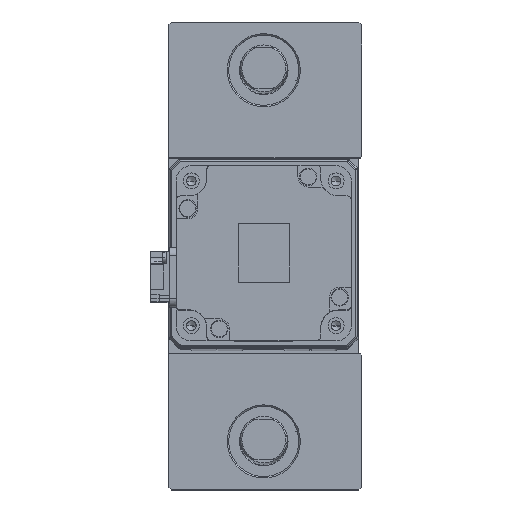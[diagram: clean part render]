
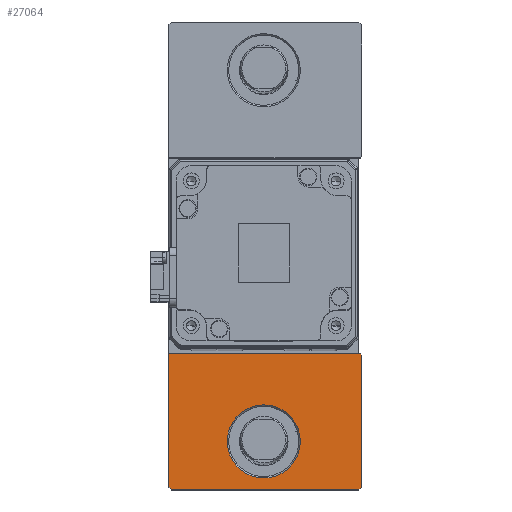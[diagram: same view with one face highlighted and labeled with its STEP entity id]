
A CAD part, top view. The second image highlights one B-rep face of the part: STEP entity #27064.
In plain terms, the highlighted planar face has unit normal (0, 0, 1).
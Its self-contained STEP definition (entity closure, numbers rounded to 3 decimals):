
#182 = ORIENTED_EDGE ( 'NONE', *, *, #24472, .T. ) ;
#576 = CARTESIAN_POINT ( 'NONE',  ( -12.5, -63.5, 25. ) ) ;
#581 = DIRECTION ( 'NONE',  ( 0., 0., 1. ) ) ;
#689 = CARTESIAN_POINT ( 'NONE',  ( 56.25, -56.25, 25. ) ) ;
#3209 = VERTEX_POINT ( 'NONE', #35562 ) ;
#3977 = FACE_OUTER_BOUND ( 'NONE', #27365, .T. ) ;
#4003 = EDGE_CURVE ( 'NONE', #14745, #13877, #34390, .T. ) ;
#4799 = VECTOR ( 'NONE', #11771, 1000. ) ;
#6538 = CARTESIAN_POINT ( 'NONE',  ( -32.5, -33.5, 25. ) ) ;
#6608 = EDGE_CURVE ( 'NONE', #32465, #11825, #11391, .T. ) ;
#6755 = DIRECTION ( 'NONE',  ( 1., 0., 0. ) ) ;
#7137 = VERTEX_POINT ( 'NONE', #20170 ) ;
#7980 = AXIS2_PLACEMENT_3D ( 'NONE', #12498, #33220, #15490 ) ;
#8525 = VECTOR ( 'NONE', #36573, 1000. ) ;
#8758 = VECTOR ( 'NONE', #31681, 1000. ) ;
#9083 = CARTESIAN_POINT ( 'NONE',  ( 33.5, -79., 25. ) ) ;
#10114 = ORIENTED_EDGE ( 'NONE', *, *, #28030, .T. ) ;
#11391 = LINE ( 'NONE', #21463, #26228 ) ;
#11771 = DIRECTION ( 'NONE',  ( 0., 1., 0. ) ) ;
#11825 = VERTEX_POINT ( 'NONE', #25741 ) ;
#12498 = CARTESIAN_POINT ( 'NONE',  ( 0., -63.5, 25. ) ) ;
#12751 = ORIENTED_EDGE ( 'NONE', *, *, #17106, .T. ) ;
#13756 = EDGE_CURVE ( 'NONE', #27596, #7137, #29505, .T. ) ;
#13877 = VERTEX_POINT ( 'NONE', #30721 ) ;
#14745 = VERTEX_POINT ( 'NONE', #9083 ) ;
#15228 = VECTOR ( 'NONE', #30194, 1000. ) ;
#15490 = DIRECTION ( 'NONE',  ( 1., 0., 0. ) ) ;
#15664 = LINE ( 'NONE', #37431, #8758 ) ;
#15762 = CARTESIAN_POINT ( 'NONE',  ( -32.5, -33.5, 25. ) ) ;
#15989 = AXIS2_PLACEMENT_3D ( 'NONE', #34780, #17073, #37743 ) ;
#16353 = LINE ( 'NONE', #15762, #8525 ) ;
#16620 = EDGE_CURVE ( 'NONE', #3209, #36552, #36250, .T. ) ;
#16836 = ORIENTED_EDGE ( 'NONE', *, *, #16620, .T. ) ;
#17073 = DIRECTION ( 'NONE',  ( 0., 0., -1. ) ) ;
#17106 = EDGE_CURVE ( 'NONE', #31542, #32465, #18635, .T. ) ;
#17519 = CARTESIAN_POINT ( 'NONE',  ( -55.75, -55.75, 25. ) ) ;
#18635 = LINE ( 'NONE', #17519, #25594 ) ;
#20170 = CARTESIAN_POINT ( 'NONE',  ( -32.5, -33.5, 25. ) ) ;
#20502 = ORIENTED_EDGE ( 'NONE', *, *, #4003, .T. ) ;
#21161 = PLANE ( 'NONE',  #24896 ) ;
#21280 = DIRECTION ( 'NONE',  ( 1., 0., 0. ) ) ;
#21463 = CARTESIAN_POINT ( 'NONE',  ( -32.5, -80., 25. ) ) ;
#21635 = VECTOR ( 'NONE', #27242, 1000. ) ;
#23760 = CIRCLE ( 'NONE', #15989, 12.5 ) ;
#24472 = EDGE_CURVE ( 'NONE', #11825, #14745, #37901, .T. ) ;
#24896 = AXIS2_PLACEMENT_3D ( 'NONE', #33062, #581, #21280 ) ;
#25594 = VECTOR ( 'NONE', #35237, 1000. ) ;
#25687 = CARTESIAN_POINT ( 'NONE',  ( -31.5, -80., 25. ) ) ;
#25741 = CARTESIAN_POINT ( 'NONE',  ( 32.5, -80., 25. ) ) ;
#26228 = VECTOR ( 'NONE', #6755, 1000. ) ;
#26632 = FACE_BOUND ( 'NONE', #35519, .T. ) ;
#27064 = ADVANCED_FACE ( 'NONE', ( #26632, #3977 ), #21161, .T. ) ;
#27242 = DIRECTION ( 'NONE',  ( -1., 0., 0. ) ) ;
#27365 = EDGE_LOOP ( 'NONE', ( #36620, #182, #20502, #37211, #28130, #29863, #12751 ) ) ;
#27596 = VERTEX_POINT ( 'NONE', #35697 ) ;
#28030 = EDGE_CURVE ( 'NONE', #36552, #3209, #23760, .T. ) ;
#28130 = ORIENTED_EDGE ( 'NONE', *, *, #13756, .T. ) ;
#29001 = CARTESIAN_POINT ( 'NONE',  ( -32.5, -79., 25. ) ) ;
#29505 = LINE ( 'NONE', #6538, #21635 ) ;
#29506 = CARTESIAN_POINT ( 'NONE',  ( 33.5, -33.5, 25. ) ) ;
#29863 = ORIENTED_EDGE ( 'NONE', *, *, #35604, .T. ) ;
#30194 = DIRECTION ( 'NONE',  ( 0.707, 0.707, 0. ) ) ;
#30349 = EDGE_CURVE ( 'NONE', #13877, #27596, #15664, .T. ) ;
#30721 = CARTESIAN_POINT ( 'NONE',  ( 33.5, -34., 25. ) ) ;
#31542 = VERTEX_POINT ( 'NONE', #29001 ) ;
#31681 = DIRECTION ( 'NONE',  ( -0.707, 0.707, 0. ) ) ;
#32465 = VERTEX_POINT ( 'NONE', #25687 ) ;
#33062 = CARTESIAN_POINT ( 'NONE',  ( 0., 0., 25. ) ) ;
#33220 = DIRECTION ( 'NONE',  ( 0., 0., -1. ) ) ;
#34390 = LINE ( 'NONE', #29506, #4799 ) ;
#34780 = CARTESIAN_POINT ( 'NONE',  ( 0., -63.5, 25. ) ) ;
#35237 = DIRECTION ( 'NONE',  ( 0.707, -0.707, 0. ) ) ;
#35519 = EDGE_LOOP ( 'NONE', ( #16836, #10114 ) ) ;
#35562 = CARTESIAN_POINT ( 'NONE',  ( 12.5, -63.5, 25. ) ) ;
#35604 = EDGE_CURVE ( 'NONE', #7137, #31542, #16353, .T. ) ;
#35697 = CARTESIAN_POINT ( 'NONE',  ( 33., -33.5, 25. ) ) ;
#36250 = CIRCLE ( 'NONE', #7980, 12.5 ) ;
#36552 = VERTEX_POINT ( 'NONE', #576 ) ;
#36573 = DIRECTION ( 'NONE',  ( 0., -1., 0. ) ) ;
#36620 = ORIENTED_EDGE ( 'NONE', *, *, #6608, .T. ) ;
#37211 = ORIENTED_EDGE ( 'NONE', *, *, #30349, .T. ) ;
#37431 = CARTESIAN_POINT ( 'NONE',  ( -0.25, -0.25, 25. ) ) ;
#37743 = DIRECTION ( 'NONE',  ( 1., 0., 0. ) ) ;
#37901 = LINE ( 'NONE', #689, #15228 ) ;
